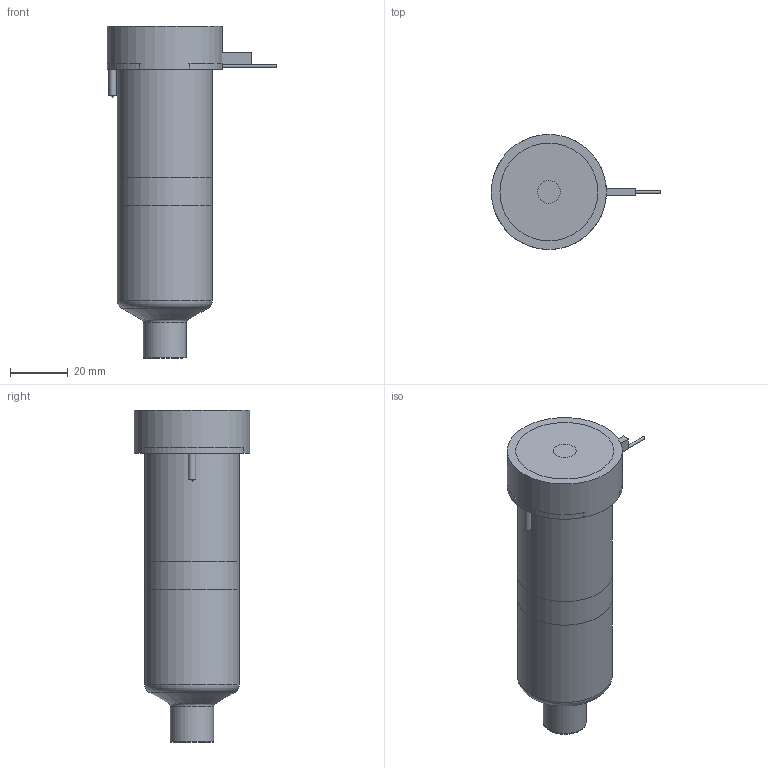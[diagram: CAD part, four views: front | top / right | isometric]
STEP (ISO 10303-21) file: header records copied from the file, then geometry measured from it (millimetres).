
FILE_DESCRIPTION(/* description */ (''),/* implementation_level */ '2;1');
FILE_NAME(/* name */ 'BXTVSN-BXIVSN-BXOVSN19095_250C_b',/* time_stamp */ '2007-01-18T10:03:26+13:00',/* author */ (''),/* organization */ (''),/* preprocessor_version */ 'ST-DEVELOPER v9',/* originating_system */ 'UGS - NX 4.0',/* authorisation */ '');
FILE_SCHEMA (('CONFIG_CONTROL_DESIGN'));
Length unit declared in the file: millimetre
Products named in the file (1): BXTVSN-BXIVSN-BXOVSN19095_250C_b
Bounding box: 58.85 x 40 x 115.33 mm (x, y, z)
Volume: 175308.9 mm3; surface area: 30044.9 mm2
Topology: 6 solids, 6 shells, 76 faces, 150 edges, 96 vertices
Faces by surface type: plane 35, cylinder 23, cone 10, torus 7, bspline 1
Full cylindrical faces by diameter (mm): 1 x3, 2.5 x2, 3 x1, 8 x1, 14.61 x1, 15.01 x2, 18.3 x1, 28.6 x1, 33 x2, 40 x1
Entity records: 1900 total; most frequent: CARTESIAN_POINT 382, DIRECTION 318, ORIENTED_EDGE 224, AXIS2_PLACEMENT_3D 140, EDGE_LOOP 116, EDGE_CURVE 112, VERTEX_POINT 89, ADVANCED_FACE 76
